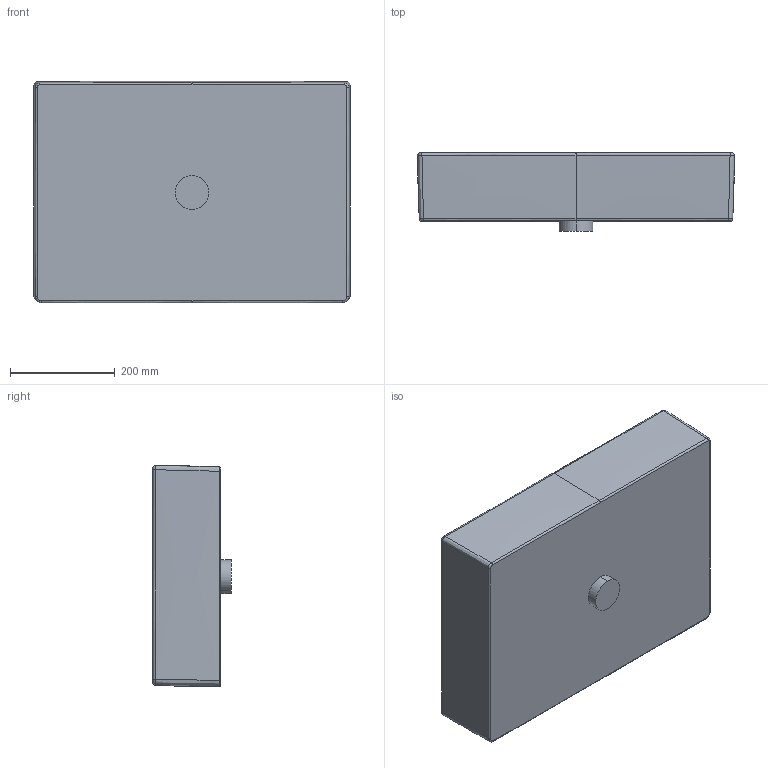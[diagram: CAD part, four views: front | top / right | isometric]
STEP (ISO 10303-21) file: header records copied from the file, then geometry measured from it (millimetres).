
FILE_DESCRIPTION((''),'2;1');
FILE_NAME('K0781_3DPL','2013-04-10T',('totevd'),('AMERICAN STANDARD B&K'),'PRO/ENGINEER BY PARAMETRIC TECHNOLOGY CORPORATION, 2011330','PRO/ENGINEER BY PARAMETRIC TECHNOLOGY CORPORATION, 2011330','');
FILE_SCHEMA(('CONFIG_CONTROL_DESIGN'));
Length unit declared in the file: millimetre
Products named in the file (1): K0781_3DPL
Bounding box: 603.99 x 149.99 x 422.49 mm (x, y, z)
Volume: 18077012.5 mm3; surface area: 900270.2 mm2
Topology: 1 solids, 4 shells, 86 faces, 195 edges, 115 vertices
Faces by surface type: bspline 78, plane 6, cylinder 2
Entity records: 7481 total; most frequent: CARTESIAN_POINT 6036, ORIENTED_EDGE 378, EDGE_CURVE 195, DIRECTION 138, B_SPLINE_CURVE_WITH_KNOTS 126, VERTEX_POINT 115, EDGE_LOOP 87, FACE_OUTER_BOUND 86
